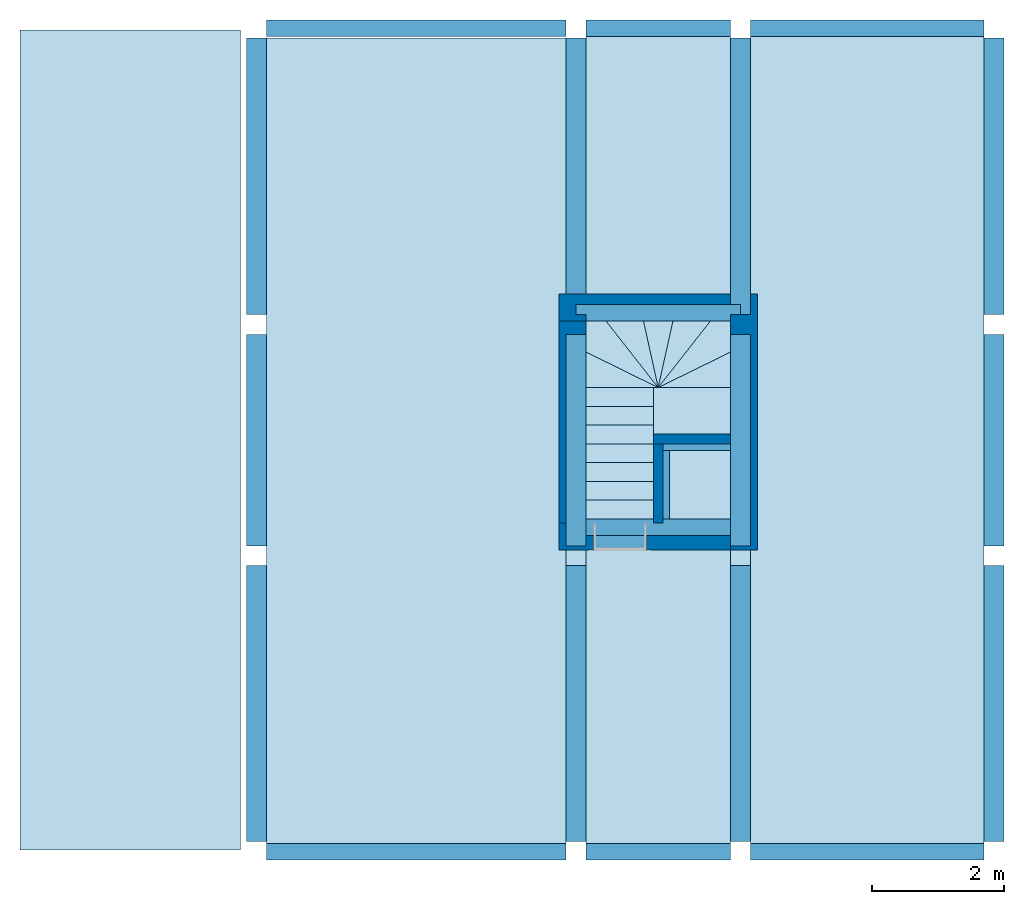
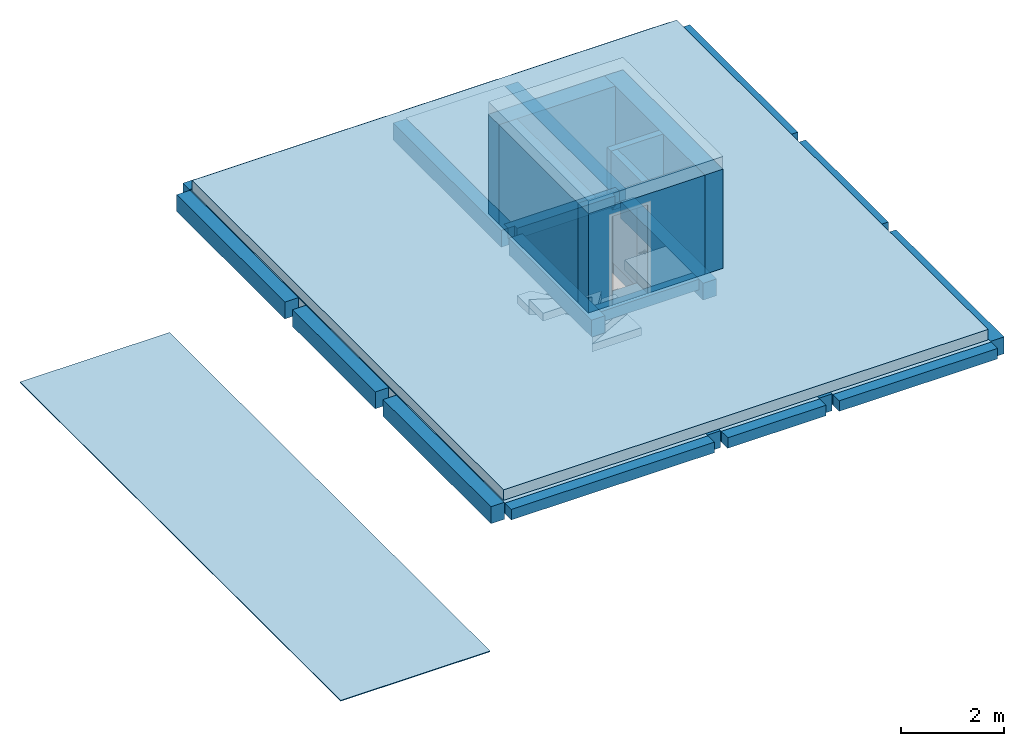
# One storey, incomplete: 22 beams, 10 slabs, 6 walls, 2 openings, 2 elements without a shape of their own.
"""IFC2X3 building model written with IfcOpenShell, lengths in metres."""

from ifc_helpers import new_model, entity, si_unit, converted_unit, derived_unit, direction, frame, frame_2d, origin, origin_2d_with_axis, place, context, subcontext, project, spatial, polyline, rectangle, outline, extrude, clip, bounded_halfspace, material, layer, layer_set, layer_usage, type_object, element, aggregate, save


model = new_model("IFC2X3")

# Units and contexts
model_context = context("Model", 3, precision=1e-05, world=origin(), true_north=direction((6.12303176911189e-17, 1.0)))
context_of_model = context(None, 3, precision=1e-05, world=origin(), true_north=direction((6.12303176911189e-17, 1.0)))
body_context = subcontext(model_context, "Body", "Model", "MODEL_VIEW")
ifc_project = project(units=[si_unit("LENGTHUNIT", "METRE"), si_unit("AREAUNIT", "SQUARE_METRE"), si_unit("VOLUMEUNIT", "CUBIC_METRE"), converted_unit("PLANEANGLEUNIT", "DEGREE", entity("IfcRatioMeasure", 0.0174532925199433), si_unit("PLANEANGLEUNIT", "RADIAN"), dimensions=[0, 0, 0, 0, 0, 0, 0]), si_unit("MASSUNIT", "GRAM", prefix="KILO"), si_unit("TIMEUNIT", "SECOND"), si_unit("FREQUENCYUNIT", "HERTZ"), si_unit("THERMODYNAMICTEMPERATUREUNIT", "DEGREE_CELSIUS"), derived_unit("THERMALTRANSMITTANCEUNIT", [(si_unit("MASSUNIT", "GRAM", prefix="KILO"), 1), (si_unit("THERMODYNAMICTEMPERATUREUNIT", "KELVIN"), -1), (si_unit("TIMEUNIT", "SECOND"), -3)]), derived_unit("VOLUMETRICFLOWRATEUNIT", [(si_unit("LENGTHUNIT", "METRE"), 3), (si_unit("TIMEUNIT", "SECOND"), -1)]), si_unit("ELECTRICCURRENTUNIT", "AMPERE"), si_unit("ELECTRICVOLTAGEUNIT", "VOLT"), si_unit("POWERUNIT", "WATT"), si_unit("FORCEUNIT", "NEWTON", prefix="KILO"), si_unit("ILLUMINANCEUNIT", "LUX"), si_unit("LUMINOUSFLUXUNIT", "LUMEN"), si_unit("LUMINOUSINTENSITYUNIT", "CANDELA"), si_unit("PRESSUREUNIT", "PASCAL")], contexts=[model_context, context_of_model])

# Site, building, storey
site_placement = place(None, origin())
site = spatial("IfcSite", under=ifc_project, at=site_placement, Name="Default", CompositionType="ELEMENT")
building_placement = place(site_placement, origin())
building = spatial("IfcBuilding", under=site, at=building_placement, CompositionType="ELEMENT")
storey_placement = place(building_placement, frame((0.0, 0.0, 6.78)))
storey = spatial("IfcBuildingStorey", under=building, at=storey_placement, Name="03.ES.CUBIERTA", CompositionType="ELEMENT", Elevation=6.78)

# Beams
beam_1_placement = place(storey_placement, frame((15.265, 0.600000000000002, 0.0), z_axis=(0.0, 0.0, 1.0), x_axis=(-1.0, 0.0, 0.0)))
element("IfcBeam", 1, at=beam_1_placement, inside=storey, Name="Hormigón-Viga rectangular:250 x 250 mm", ObjectType="Hormigón-Viga rectangular:250 x 250 mm", context=body_context, shape_type="SweptSolid", body=[
    extrude(rectangle(XDim=0.249999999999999, YDim=0.250000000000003, at=frame_2d((0.0, 1.14006026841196e-14), x_axis=(1.0, 0.0))), frame((0.0, 0.0, -0.125000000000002), z_axis=(1.0, 0.0, 0.0), x_axis=(0.0, 0.0, -1.0)), (0.0, 0.0, 1.0), 3.55000000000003),
])
beam_2_placement = place(storey_placement, frame((11.415, 0.600000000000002, 0.0), z_axis=(0.0, 0.0, 1.0), x_axis=(-1.0, 0.0, 0.0)))
element("IfcBeam", 2, at=beam_2_placement, inside=storey, Name="Hormigón-Viga rectangular:250 x 250 mm", ObjectType="Hormigón-Viga rectangular:250 x 250 mm", context=body_context, shape_type="SweptSolid", body=[
    extrude(rectangle(XDim=0.249999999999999, YDim=0.250000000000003, at=frame_2d((0.0, 7.07073288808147e-15), x_axis=(1.0, 0.0))), frame((0.0, 0.0, -0.125000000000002), z_axis=(1.0, 0.0, 0.0), x_axis=(0.0, 0.0, -1.0)), (0.0, 0.0, 1.0), 2.19999999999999),
])
beam_3_placement = place(storey_placement, frame((8.915, 0.600000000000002, 0.0), z_axis=(0.0, 0.0, 1.0), x_axis=(-1.0, 0.0, 0.0)))
element("IfcBeam", 3, at=beam_3_placement, inside=storey, Name="Hormigón-Viga rectangular:250 x 250 mm", ObjectType="Hormigón-Viga rectangular:250 x 250 mm", context=body_context, shape_type="SweptSolid", body=[
    extrude(rectangle(XDim=0.25, YDim=0.250000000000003, at=frame_2d((0.0, 1.45508605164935e-14), x_axis=(1.0, 0.0))), frame((0.0, 0.0, -0.125000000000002), z_axis=(1.0, 0.0, 0.0), x_axis=(0.0, 0.0, -1.0)), (0.0, 0.0, 1.0), 4.54999999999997),
])
beam_4_placement = place(storey_placement, frame((15.265, 13.0999999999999, 0.0), z_axis=(0.0, 0.0, 1.0), x_axis=(-1.0, 0.0, 0.0)))
element("IfcBeam", 4, at=beam_4_placement, inside=storey, Name="Hormigón-Viga rectangular:250 x 250 mm", ObjectType="Hormigón-Viga rectangular:250 x 250 mm", context=body_context, shape_type="SweptSolid", body=[
    extrude(rectangle(XDim=0.25, YDim=0.250000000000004, at=frame_2d((0.0, 1.08316133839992e-14), x_axis=(1.0, 0.0))), frame((0.0, 0.0, -0.125000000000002), z_axis=(1.0, 0.0, 0.0), x_axis=(0.0, 0.0, -1.0)), (0.0, 0.0, 1.0), 3.55000000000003),
])
beam_5_placement = place(storey_placement, frame((11.415, 13.1, 0.0), z_axis=(0.0, 0.0, 1.0), x_axis=(-1.0, 0.0, 0.0)))
element("IfcBeam", 5, at=beam_5_placement, inside=storey, Name="Hormigón-Viga rectangular:250 x 250 mm", ObjectType="Hormigón-Viga rectangular:250 x 250 mm", context=body_context, shape_type="SweptSolid", body=[
    extrude(rectangle(XDim=0.25, YDim=0.250000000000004, at=frame_2d((0.0, 6.50174358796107e-15), x_axis=(1.0, 0.0))), frame((0.0, 0.0, -0.125000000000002), z_axis=(1.0, 0.0, 0.0), x_axis=(0.0, 0.0, -1.0)), (0.0, 0.0, 1.0), 2.19999999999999),
])
beam_6_placement = place(storey_placement, frame((4.36500000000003, 13.1, 0.0)))
element("IfcBeam", 6, at=beam_6_placement, inside=storey, Name="Hormigón-Viga rectangular:250 x 250 mm", ObjectType="Hormigón-Viga rectangular:250 x 250 mm", context=body_context, shape_type="SweptSolid", body=[
    extrude(rectangle(XDim=0.25, YDim=0.250000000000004, at=frame_2d((0.0, 1.51614831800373e-14), x_axis=(1.0, 0.0))), frame((0.0, 0.0, -0.125000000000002), z_axis=(1.0, 0.0, 0.0), x_axis=(0.0, 0.0, -1.0)), (0.0, 0.0, 1.0), 4.54999999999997),
])
beam_7_placement = place(storey_placement, frame((15.415, 0.750000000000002, 0.0), z_axis=(0.0, 0.0, 1.0), x_axis=(0.0, 1.0, 0.0)))
element("IfcBeam", 7, at=beam_7_placement, inside=storey, Name="Hormigón-Viga rectangular:300 x 400 mm", ObjectType="Hormigón-Viga rectangular:300 x 400 mm", context=body_context, shape_type="SweptSolid", body=[
    extrude(rectangle(XDim=0.4, YDim=0.300000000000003, at=frame_2d((0.0, -1.08246744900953e-15), x_axis=(1.0, 0.0))), frame((0.0, 0.0, -0.200000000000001), z_axis=(1.0, 0.0, 0.0), x_axis=(0.0, 0.0, -1.0)), (0.0, 0.0, 1.0), 4.19006108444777),
])
beam_8_placement = place(storey_placement, frame((15.415, 5.24006108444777, 0.0), z_axis=(0.0, 0.0, 1.0), x_axis=(0.0, 1.0, 0.0)))
element("IfcBeam", 8, at=beam_8_placement, inside=storey, Name="Hormigón-Viga rectangular:300 x 400 mm", ObjectType="Hormigón-Viga rectangular:300 x 400 mm", context=body_context, shape_type="SweptSolid", body=[
    extrude(rectangle(XDim=0.4, YDim=0.300000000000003, at=frame_2d((0.0, -1.08246744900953e-15), x_axis=(1.0, 0.0))), frame((0.0, 0.0, -0.200000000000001), z_axis=(1.0, 0.0, 0.0), x_axis=(0.0, 0.0, -1.0)), (0.0, 0.0, 1.0), 3.20993891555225),
])
beam_9_placement = place(storey_placement, frame((15.415, 8.75000000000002, 0.0), z_axis=(0.0, 0.0, 1.0), x_axis=(0.0, 1.0, 0.0)))
element("IfcBeam", 9, at=beam_9_placement, inside=storey, Name="Hormigón-Viga rectangular:300 x 400 mm", ObjectType="Hormigón-Viga rectangular:300 x 400 mm", context=body_context, shape_type="SweptSolid", body=[
    extrude(rectangle(XDim=0.4, YDim=0.300000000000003, at=frame_2d((0.0, -1.08246744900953e-15), x_axis=(1.0, 0.0))), frame((0.0, 0.0, -0.200000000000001), z_axis=(1.0, 0.0, 0.0), x_axis=(0.0, 0.0, -1.0)), (0.0, 0.0, 1.0), 4.19999999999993),
])
beam_10_placement = place(storey_placement, frame((11.565, 0.750000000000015, 0.0), z_axis=(0.0, 0.0, 1.0), x_axis=(0.0, 1.0, 0.0)))
element("IfcBeam", 10, at=beam_10_placement, inside=storey, Name="Hormigón-Viga rectangular:300 x 400 mm", ObjectType="Hormigón-Viga rectangular:300 x 400 mm", context=body_context, shape_type="SweptSolid", body=[
    extrude(rectangle(XDim=0.4, YDim=0.300000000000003, at=frame_2d((0.0, -1.08246744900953e-15), x_axis=(1.0, 0.0))), frame((0.0, 0.0, -0.200000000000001), z_axis=(1.0, 0.0, 0.0), x_axis=(0.0, 0.0, -1.0)), (0.0, 0.0, 1.0), 4.19006108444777),
])
beam_11_placement = place(storey_placement, frame((11.565, 5.24006108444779, 0.0), z_axis=(0.0, 0.0, 1.0), x_axis=(0.0, 1.0, 0.0)))
element("IfcBeam", 11, at=beam_11_placement, inside=storey, Name="Hormigón-Viga rectangular:300 x 400 mm", ObjectType="Hormigón-Viga rectangular:300 x 400 mm", context=body_context, shape_type="SweptSolid", body=[
    extrude(rectangle(XDim=0.4, YDim=0.300000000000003, at=frame_2d((0.0, -1.08246744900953e-15), x_axis=(1.0, 0.0))), frame((0.0, 0.0, -0.200000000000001), z_axis=(1.0, 0.0, 0.0), x_axis=(0.0, 0.0, -1.0)), (0.0, 0.0, 1.0), 3.20993891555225),
])
beam_12_placement = place(storey_placement, frame((11.565, 8.75000000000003, 0.0), z_axis=(0.0, 0.0, 1.0), x_axis=(0.0, 1.0, 0.0)))
element("IfcBeam", 12, at=beam_12_placement, inside=storey, Name="Hormigón-Viga rectangular:300 x 400 mm", ObjectType="Hormigón-Viga rectangular:300 x 400 mm", context=body_context, shape_type="Clipping", body=[
    clip(extrude(rectangle(XDim=0.4, YDim=0.300000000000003, at=frame_2d((0.0, -1.08246744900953e-15), x_axis=(1.0, 0.0))), frame((0.0, 0.0, -0.200000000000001), z_axis=(1.0, 0.0, 0.0), x_axis=(0.0, 0.0, -1.0)), (0.0, 0.0, 1.0), 4.19999999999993), bounded_halfspace(frame((0.154999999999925, 2.35000000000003, 0.0), z_axis=(-1.0, 0.0, 0.0), x_axis=(0.0, 0.0, -1.0)), False, frame((0.0, 0.0, -0.200000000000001), z_axis=(1.0, 0.0, 0.0), x_axis=(0.0, 0.0, -1.0)), polyline([(0.0500000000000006, 0.0), (-0.2, 0.0), (-0.2, 0.150000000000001), (0.0500000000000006, 0.150000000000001), (0.0500000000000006, 0.0)]))),
])
beam_13_placement = place(storey_placement, frame((9.06499999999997, 0.750000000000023, 0.0), z_axis=(0.0, 0.0, 1.0), x_axis=(0.0, 1.0, 0.0)))
element("IfcBeam", 13, at=beam_13_placement, inside=storey, Name="Hormigón-Viga rectangular:300 x 400 mm", ObjectType="Hormigón-Viga rectangular:300 x 400 mm", context=body_context, shape_type="SweptSolid", body=[
    extrude(rectangle(XDim=0.4, YDim=0.300000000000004, at=frame_2d((0.0, -5.41233724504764e-16), x_axis=(1.0, 0.0))), frame((0.0, 0.0, -0.200000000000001), z_axis=(1.0, 0.0, 0.0), x_axis=(0.0, 0.0, -1.0)), (0.0, 0.0, 1.0), 4.19006108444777),
])
beam_14_placement = place(storey_placement, frame((9.06499999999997, 5.2400610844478, 0.0), z_axis=(0.0, 0.0, 1.0), x_axis=(0.0, 1.0, 0.0)))
element("IfcBeam", 14, at=beam_14_placement, inside=storey, Name="Hormigón-Viga rectangular:300 x 400 mm", ObjectType="Hormigón-Viga rectangular:300 x 400 mm", context=body_context, shape_type="SweptSolid", body=[
    extrude(rectangle(XDim=0.4, YDim=0.300000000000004, at=frame_2d((0.0, -5.41233724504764e-16), x_axis=(1.0, 0.0))), frame((0.0, 0.0, -0.200000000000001), z_axis=(1.0, 0.0, 0.0), x_axis=(0.0, 0.0, -1.0)), (0.0, 0.0, 1.0), 3.20993891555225),
])
beam_15_placement = place(storey_placement, frame((9.06499999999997, 8.75000000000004, 0.0), z_axis=(0.0, 0.0, 1.0), x_axis=(0.0, 1.0, 0.0)))
element("IfcBeam", 15, at=beam_15_placement, inside=storey, Name="Hormigón-Viga rectangular:300 x 400 mm", ObjectType="Hormigón-Viga rectangular:300 x 400 mm", context=body_context, shape_type="Clipping", body=[
    clip(extrude(rectangle(XDim=0.4, YDim=0.300000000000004, at=frame_2d((-5.41233724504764e-16, 0.0), x_axis=(0.0, 1.0))), frame((0.0, 0.0, -0.200000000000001), z_axis=(1.0, 0.0, 0.0), x_axis=(0.0, 1.0, 0.0)), (0.0, 0.0, 1.0), 4.19999999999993), bounded_halfspace(frame((0.154999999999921, -0.150000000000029, 0.0), z_axis=(-1.0, 0.0, 0.0), x_axis=(0.0, 0.0, -1.0)), False, frame((0.0, 0.0, -0.200000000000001), z_axis=(1.0, 0.0, 0.0), x_axis=(0.0, 1.0, 0.0)), polyline([(0.0, 0.199999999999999), (0.0, -0.0500000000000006), (-0.150000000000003, -0.0500000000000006), (-0.150000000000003, 0.2), (0.0, 0.199999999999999)]))),
])
beam_16_placement = place(storey_placement, frame((4.21499999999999, 0.750000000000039, 0.0), z_axis=(0.0, 0.0, 1.0), x_axis=(0.0, 1.0, 0.0)))
element("IfcBeam", 16, at=beam_16_placement, inside=storey, Name="Hormigón-Viga rectangular:300 x 400 mm", ObjectType="Hormigón-Viga rectangular:300 x 400 mm", context=body_context, shape_type="SweptSolid", body=[
    extrude(rectangle(XDim=0.4, YDim=0.300000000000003, at=origin_2d_with_axis()), frame((0.0, 0.0, -0.200000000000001), z_axis=(1.0, 0.0, 0.0), x_axis=(0.0, 0.0, -1.0)), (0.0, 0.0, 1.0), 4.19006108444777),
])
beam_17_placement = place(storey_placement, frame((4.21499999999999, 5.24006108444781, 0.0), z_axis=(0.0, 0.0, 1.0), x_axis=(0.0, 1.0, 0.0)))
element("IfcBeam", 17, at=beam_17_placement, inside=storey, Name="Hormigón-Viga rectangular:300 x 400 mm", ObjectType="Hormigón-Viga rectangular:300 x 400 mm", context=body_context, shape_type="SweptSolid", body=[
    extrude(rectangle(XDim=0.4, YDim=0.300000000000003, at=origin_2d_with_axis()), frame((0.0, 0.0, -0.200000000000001), z_axis=(1.0, 0.0, 0.0), x_axis=(0.0, 0.0, -1.0)), (0.0, 0.0, 1.0), 3.20993891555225),
])
beam_18_placement = place(storey_placement, frame((4.21499999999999, 8.75000000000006, 0.0), z_axis=(0.0, 0.0, 1.0), x_axis=(0.0, 1.0, 0.0)))
element("IfcBeam", 18, at=beam_18_placement, inside=storey, Name="Hormigón-Viga rectangular:300 x 400 mm", ObjectType="Hormigón-Viga rectangular:300 x 400 mm", context=body_context, shape_type="SweptSolid", body=[
    extrude(rectangle(XDim=0.4, YDim=0.300000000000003, at=origin_2d_with_axis()), frame((0.0, 0.0, -0.200000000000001), z_axis=(1.0, 0.0, 0.0), x_axis=(0.0, 0.0, -1.0)), (0.0, 0.0, 1.0), 4.19999999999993),
])
beam_19_placement = place(storey_placement, frame((11.565, 5.52500000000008, 0.0), z_axis=(0.0, 0.0, 1.0), x_axis=(-1.0, 0.0, 0.0)))
element("IfcBeam", 19, at=beam_19_placement, inside=storey, Name="Hormigón-Viga rectangular:250 x 250 mm", ObjectType="Hormigón-Viga rectangular:250 x 250 mm", context=body_context, shape_type="SweptSolid", body=[
    extrude(rectangle(XDim=0.249999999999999, YDim=0.250000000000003, at=frame_2d((0.0, 8.11850586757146e-15), x_axis=(1.0, 0.0))), frame((0.149999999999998, 0.0, -0.125000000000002), z_axis=(1.0, 0.0, 0.0), x_axis=(0.0, 0.0, -1.0)), (0.0, 0.0, 1.0), 2.20000000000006),
])
beam_20_placement = place(storey_placement, frame((11.565, 6.8150000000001, 0.0), z_axis=(0.0, 0.0, 1.0), x_axis=(-1.0, 0.0, 0.0)))
element("IfcBeam", 20, at=beam_20_placement, inside=storey, Name="Hormigón-Viga rectangular:250 x 250 mm", ObjectType="Hormigón-Viga rectangular:250 x 250 mm", context=body_context, shape_type="SweptSolid", body=[
    extrude(rectangle(XDim=0.25, YDim=0.250000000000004, at=frame_2d((0.0, 3.25434124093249e-15), x_axis=(1.0, 0.0))), frame((0.149999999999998, 0.0, -0.125000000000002), z_axis=(1.0, 0.0, 0.0), x_axis=(0.0, 0.0, -1.0)), (0.0, 0.0, 1.0), 1.17499999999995),
])
beam_21_placement = place(storey_placement, frame((10.3650000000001, 6.81500000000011, 0.0), z_axis=(0.0, 0.0, 1.0), x_axis=(0.0, -1.0, 0.0)))
element("IfcBeam", 21, at=beam_21_placement, inside=storey, Name="Hormigón-Viga rectangular:250 x 250 mm", ObjectType="Hormigón-Viga rectangular:250 x 250 mm", context=body_context, shape_type="SweptSolid", body=[
    extrude(rectangle(XDim=0.249999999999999, YDim=0.250000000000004, at=origin_2d_with_axis()), frame((0.125, 0.0, -0.125000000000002), z_axis=(1.0, 0.0, 0.0), x_axis=(0.0, 0.0, -1.0)), (0.0, 0.0, 1.0), 1.04000000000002),
])
beam_22_placement = place(storey_placement, frame((11.565, 8.77999999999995, 0.0), z_axis=(0.0, 0.0, 1.0), x_axis=(-1.0, 0.0, 0.0)))
element("IfcBeam", 22, at=beam_22_placement, inside=storey, Name="Hormigón-Viga rectangular:250 x 250 mm", ObjectType="Hormigón-Viga rectangular:250 x 250 mm", context=body_context, shape_type="Clipping", body=[
    clip(clip(extrude(rectangle(XDim=0.249999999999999, YDim=0.250000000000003, at=frame_2d((0.0, 8.65973959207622e-15), x_axis=(1.0, 0.0))), frame((0.0, 0.0, -0.125000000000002), z_axis=(1.0, 0.0, 0.0), x_axis=(0.0, 0.0, -1.0)), (0.0, 0.0, 1.0), 2.50000000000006), bounded_halfspace(frame((0.150000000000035, 0.0299999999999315, 0.0), z_axis=(-1.0, 0.0, 0.0), x_axis=(0.0, -1.0, 0.0)), False, frame((0.0, 0.0, -0.125000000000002), z_axis=(1.0, 0.0, 0.0), x_axis=(0.0, 0.0, -1.0)), polyline([(0.125000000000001, 0.0299999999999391), (-0.124999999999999, 0.0299999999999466), (-0.124999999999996, 0.125000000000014), (0.125000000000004, 0.125000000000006), (0.125000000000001, 0.0299999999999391)]))), bounded_halfspace(frame((2.35000000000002, 0.329999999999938, 0.0), z_axis=(1.0, 0.0, 0.0), x_axis=(0.0, 1.0, 0.0)), False, frame((0.0, 0.0, -0.125000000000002), z_axis=(1.0, 0.0, 0.0), x_axis=(0.0, 0.0, -1.0)), polyline([(-0.125000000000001, 0.0299999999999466), (0.125000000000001, 0.0299999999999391), (0.125000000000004, 0.124999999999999), (-0.124999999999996, 0.125000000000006), (-0.125000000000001, 0.0299999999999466)]))),
])

# Slabs
ifc_material_1 = material(Name="Suelos por defecto")
ifc_layer_1 = layer(ifc_material_1, 0.25)
ifc_layer_set_1 = layer_set([ifc_layer_1], Name="Suelo:Forjado bovedilla + vigueta - 25 cm")
ifc_layer_usage_1 = layer_usage(ifc_layer_set_1, "AXIS3", "POSITIVE", 0.0)
slab_1_placement = place(storey_placement, origin())
element("IfcSlab", 23, at=slab_1_placement, inside=storey, material=ifc_layer_usage_1, Name="Suelo:Forjado bovedilla + vigueta - 25 cm", ObjectType="Suelo:Forjado bovedilla + vigueta - 25 cm", PredefinedType="FLOOR", context=body_context, shape_type="SweptSolid", body=[
    extrude(rectangle(XDim=12.225, YDim=4.54999999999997, at=frame_2d((0.0, 2.22044604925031e-16), x_axis=(1.0, 0.0))), frame((6.64000000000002, 6.83749999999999, 0.0), z_axis=(0.0, 0.0, -1.0), x_axis=(0.0, 1.0, 0.0)), (0.0, 0.0, 1.0), 0.249999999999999),
])
ifc_layer_usage_2 = layer_usage(ifc_layer_set_1, "AXIS3", "POSITIVE", 0.0)
slab_2_placement = place(storey_placement, origin())
element("IfcSlab", 24, at=slab_2_placement, inside=storey, material=ifc_layer_usage_2, Name="Suelo:Forjado bovedilla + vigueta - 25 cm", ObjectType="Suelo:Forjado bovedilla + vigueta - 25 cm", PredefinedType="FLOOR", context=body_context, shape_type="SweptSolid", body=[
    extrude(rectangle(XDim=4.67500000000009, YDim=2.2, at=frame_2d((6.66133814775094e-16, -1.11022302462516e-15), x_axis=(1.0, 0.0))), frame((10.315, 3.06250000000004, 0.0), z_axis=(0.0, 0.0, -1.0), x_axis=(0.0, 1.0, 0.0)), (0.0, 0.0, 1.0), 0.249999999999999),
])
ifc_layer_usage_3 = layer_usage(ifc_layer_set_1, "AXIS3", "POSITIVE", 0.0)
slab_3_placement = place(storey_placement, origin())
element("IfcSlab", 25, at=slab_3_placement, inside=storey, material=ifc_layer_usage_3, Name="Suelo:Forjado bovedilla + vigueta - 25 cm", ObjectType="Suelo:Forjado bovedilla + vigueta - 25 cm", PredefinedType="FLOOR", context=body_context, shape_type="SweptSolid", body=[
    extrude(rectangle(XDim=12.25, YDim=3.55000000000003, at=frame_2d((-8.88178419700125e-16, -1.11022302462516e-15), x_axis=(1.0, 0.0))), frame((13.49, 6.84999999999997, 0.0), z_axis=(0.0, 0.0, -1.0), x_axis=(0.0, 1.0, 0.0)), (0.0, 0.0, 1.0), 0.249999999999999),
])
ifc_layer_usage_4 = layer_usage(ifc_layer_set_1, "AXIS3", "POSITIVE", 0.0)
slab_4_placement = place(storey_placement, origin())
element("IfcSlab", 26, at=slab_4_placement, inside=storey, material=ifc_layer_usage_4, Name="Suelo:Forjado bovedilla + vigueta - 25 cm", ObjectType="Suelo:Forjado bovedilla + vigueta - 25 cm", PredefinedType="FLOOR", context=body_context, shape_type="SweptSolid", body=[
    extrude(rectangle(XDim=1.04000000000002, YDim=0.92499999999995, at=frame_2d((5.55111512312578e-16, 0.0), x_axis=(1.0, 0.0))), frame((10.9525000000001, 6.17000000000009, 0.0), z_axis=(0.0, 0.0, -1.0), x_axis=(0.0, 1.0, 0.0)), (0.0, 0.0, 1.0), 0.249999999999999),
])
ifc_layer_usage_5 = layer_usage(ifc_layer_set_1, "AXIS3", "POSITIVE", 0.0)
slab_5_placement = place(storey_placement, origin())
element("IfcSlab", 27, at=slab_5_placement, inside=storey, material=ifc_layer_usage_5, Name="Suelo:Forjado bovedilla + vigueta - 25 cm", ObjectType="Suelo:Forjado bovedilla + vigueta - 25 cm", PredefinedType="FLOOR", context=body_context, shape_type="SweptSolid", body=[
    extrude(rectangle(XDim=4.06999999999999, YDim=2.19999999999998, at=frame_2d((-4.44089209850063e-16, 0.0), x_axis=(1.0, 0.0))), frame((10.315, 10.94, 0.0), z_axis=(0.0, 0.0, -1.0), x_axis=(0.0, 1.0, 0.0)), (0.0, 0.0, 1.0), 0.249999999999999),
])
slab_6_placement = place(storey_placement, origin())
element("IfcSlab", 28, at=slab_6_placement, inside=storey, material=ifc_material_1, Name="Peldaño 3:Peldaño 1", ObjectType="Peldaño 3:Peldaño 1", PredefinedType="FLOOR", context=body_context, shape_type="SweptSolid", body=[
    extrude(outline(polyline([(-0.366119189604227, -0.179999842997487), (0.732951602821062, -0.179999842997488), (-0.366832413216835, 0.359999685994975), (-0.366119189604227, -0.179999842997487)])), frame((9.58135661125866, 7.82509501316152, -1.5849985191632), z_axis=(0.0, 0.0, 1.0), x_axis=(0.999999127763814, -0.00132078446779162, 0.0)), (0.0, 0.0, 1.0), 0.185),
    extrude(outline(polyline([(0.044140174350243, -0.369573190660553), (0.351643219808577, -0.369573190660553), (0.351643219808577, 0.0988473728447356), (-0.747426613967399, 0.640299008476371), (0.044140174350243, -0.369573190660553)])), frame((9.56664321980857, 8.28442626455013, -1.7699985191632), z_axis=(0.0, 0.0, 1.0), x_axis=(-1.0, 0.0, 0.0)), (0.0, 0.0, 1.0), 0.185),
    extrude(outline(polyline([(-0.544805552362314, -0.149389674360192), (0.738323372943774, -0.149389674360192), (-0.193517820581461, 0.298779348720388), (-0.544805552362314, -0.149389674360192)])), frame((9.97617098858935, 8.31737538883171, -1.9549985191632), z_axis=(0.0, 0.0, 1.0), x_axis=(0.616903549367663, -0.787038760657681, 0.0)), (0.0, 0.0, 1.0), 0.185),
    extrude(outline(polyline([(-0.376616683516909, -0.145234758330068), (0.657396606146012, -0.145234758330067), (-0.280779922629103, 0.290469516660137), (-0.376616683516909, -0.145234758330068)])), frame((10.314689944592, 8.31737538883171, -2.1399985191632), z_axis=(0.0, 0.0, 1.0), x_axis=(0.214822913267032, -0.976653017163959, 0.0)), (0.0, 0.0, 1.0), 0.185),
    extrude(outline(polyline([(-0.303703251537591, -0.185308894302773), (0.730711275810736, -0.185308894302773), (-0.427008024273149, 0.370617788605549), (-0.303703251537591, -0.185308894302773)])), frame((10.6532089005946, 8.3173753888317, -2.3249985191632), z_axis=(0.0, 0.0, 1.0), x_axis=(-0.216538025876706, -0.976274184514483, 0.0)), (0.0, 0.0, 1.0), 0.185),
    extrude(outline(polyline([(-0.352108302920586, -0.369968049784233), (-0.0446052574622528, -0.369968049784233), (0.748821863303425, 0.639904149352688), (-0.352108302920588, 0.100031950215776), (-0.352108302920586, -0.369968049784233)])), frame((11.0628916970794, 8.28403140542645, -2.6949985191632), z_axis=(0.0, 0.0, 1.0), x_axis=(-1.0, 0.0, 0.0)), (0.0, 0.0, 1.0), 0.37),
    extrude(outline(polyline([(-0.487958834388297, -0.161575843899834), (0.738217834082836, -0.161575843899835), (-0.250258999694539, 0.32315168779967), (-0.487958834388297, -0.161575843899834)])), frame((11.0480232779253, 7.82408465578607, -2.6949985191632), z_axis=(0.0, 0.0, 1.0), x_axis=(-0.897856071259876, -0.44028908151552, 0.0)), (0.0, 0.0, 1.0), 0.185),
])
slab_7_placement = place(storey_placement, origin())
element("IfcSlab", 29, at=slab_7_placement, inside=storey, material=ifc_material_1, Name="escalera tramo 1:escalera tramo 2", ObjectType="escalera tramo 1:escalera tramo 2", PredefinedType="FLOOR", context=body_context, shape_type="SweptSolid", body=[
    extrude(outline(polyline([(-1.05974808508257, -0.548823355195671), (-1.05974808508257, -0.91882335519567), (0.995969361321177, 0.416175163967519), (0.935251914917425, 0.416175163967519), (0.935251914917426, 0.561176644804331), (0.650251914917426, 0.56117664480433), (0.650251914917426, 0.376176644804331), (0.365251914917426, 0.37617664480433), (0.365251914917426, 0.191176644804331), (0.080251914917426, 0.19117664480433), (0.0802519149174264, 0.00617664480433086), (-0.204748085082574, 0.00617664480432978), (-0.204748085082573, -0.178823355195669), (-0.489748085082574, -0.17882335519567), (-0.489748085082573, -0.36382335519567), (-0.774748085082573, -0.363823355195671), (-0.774748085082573, -0.548823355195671), (-1.05974808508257, -0.548823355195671)])), frame((9.21500000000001, 6.58437917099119, -0.666175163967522), z_axis=(-1.0, 0.0, 0.0), x_axis=(0.0, -1.0, 0.0)), (0.0, 0.0, -1.0), 1.02499999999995),
])

# Roof, slab, opening
roof_1_placement = place(storey_placement, origin())
roof_1 = element("IfcRoof", 30, at=roof_1_placement, inside=storey, Name="Cubierta básica:Plana invertida transitable", ObjectType="Cubierta básica:Plana invertida transitable", ShapeType="NOTDEFINED")
slab_8_placement = place(storey_placement, origin())
slab_8 = element("IfcSlab", 31, at=slab_8_placement, Name="Cubierta básica:Plana invertida transitable:1", ObjectType="Cubierta básica:Plana invertida transitable", PredefinedType="ROOF", context=body_context, shape_type="SweptSolid", body=[
    extrude(rectangle(XDim=12.0915177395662, YDim=10.8600000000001, at=origin_2d_with_axis()), frame((9.81499999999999, 6.86075886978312, 0.0), z_axis=(0.0, 0.0, 1.0), x_axis=(0.0, -1.0, 0.0)), (0.0, 0.0, 1.0), 0.249999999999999),
])
opening_1_placement = place(storey_placement, origin())
element("IfcOpeningElement", 32, at=opening_1_placement, cuts=slab_8, Name="Cubierta básica:Plana invertida transitable:1", ObjectType="Opening", context=body_context, shape_type="SweptSolid", body=[
    extrude(rectangle(XDim=3.88558964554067, YDim=3.02, at=frame_2d((0.0, -5.55111512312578e-16), x_axis=(1.0, 0.0))), frame((10.315, 7.12120463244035, 0.0), z_axis=(0.0, 0.0, 1.0), x_axis=(0.0, 1.0, 0.0)), (0.0, 0.0, 1.0), 0.249999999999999),
])
aggregate(roof_1, [slab_8])

# Slab
ifc_layer_2 = layer(ifc_material_1, 0.3)
ifc_layer_set_2 = layer_set([ifc_layer_2], Name="Suelo:Por defecto - 30 cm")
ifc_layer_usage_6 = layer_usage(ifc_layer_set_2, "AXIS3", "POSITIVE", 0.0)
slab_9_placement = place(storey_placement, origin())
element("IfcSlab", 33, at=slab_9_placement, inside=storey, material=ifc_layer_usage_6, Name="Suelo:Por defecto - 30 cm", ObjectType="Suelo:Por defecto - 30 cm", PredefinedType="FLOOR", context=body_context, shape_type="SweptSolid", body=[
    extrude(rectangle(XDim=3.88558964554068, YDim=3.02, at=frame_2d((-5.55111512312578e-16, 5.55111512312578e-16), x_axis=(1.0, 0.0))), frame((10.315, 7.12120463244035, 2.9), z_axis=(0.0, 0.0, -1.0), x_axis=(0.0, 1.0, 0.0)), (0.0, 0.0, 1.0), 0.3),
])

# Roof, slab
roof_2_placement = place(storey_placement, frame((0.624999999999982, 0.62499999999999, -3.33)))
roof_2 = element("IfcRoof", 34, at=roof_2_placement, inside=storey, Name="Cubierta básica:Plana invertida transitable tipo 2", ObjectType="Cubierta básica:Plana invertida transitable tipo 2", ShapeType="NOTDEFINED")
ifc_material_2 = material(Name="Azulejos de cerámica")
ifc_layer_3 = layer(ifc_material_2, 0.01)
ifc_material_3 = material(Name="Mortero de hormigón")
ifc_layer_4 = layer(ifc_material_3, 0.01)
ifc_layer_set_3 = layer_set([ifc_layer_3, ifc_layer_4], Name="Cubierta básica:Plana invertida transitable tipo 2")
slab_10_placement = place(roof_2_placement, origin())
slab_10 = element("IfcSlab", 35, at=slab_10_placement, material=ifc_layer_set_3, Name="Cubierta básica:Plana invertida transitable tipo 2", ObjectType="Cubierta básica:Plana invertida transitable tipo 2", PredefinedType="ROOF", context=body_context, shape_type="SweptSolid", body=[
    extrude(rectangle(XDim=3.34999999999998, YDim=12.45, at=frame_2d((1.11022302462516e-16, 8.88178419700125e-16), x_axis=(1.0, 0.0))), frame((1.67499999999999, 6.225, 0.0)), (0.0, 0.0, 1.0), 0.0199999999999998),
])
aggregate(roof_2, [slab_10])

# Walls
ifc_material_4 = material(Name="APL-Enfoscado de mortero de cemento de resistencia muy alta a la filtración (B3)")
ifc_layer_5 = layer(ifc_material_4, 0.015)
ifc_material_5 = material(Name="APL-Pared de obra de fabrica de ladrillo ceramico perforado, de e=11,5cm")
ifc_layer_6 = layer(ifc_material_5, 0.115)
ifc_material_6 = material(Name="APL-Camara de aire no ventilada")
ifc_layer_7 = layer(ifc_material_6, 0.075)
ifc_material_7 = material(Name="APL-Poliestireno expandido elastificado de e=0.037")
ifc_layer_8 = layer(ifc_material_7, 0.12)
ifc_material_8 = material(Name="APL-Tabique de obra de fabrica de ladrillo ceramico hueco doble, de e=7cm")
ifc_layer_9 = layer(ifc_material_8, 0.07)
ifc_material_9 = material(Name="APL-Guarnecido de yeso")
ifc_layer_10 = layer(ifc_material_9, 0.015)
ifc_layer_set_4 = layer_set([ifc_layer_5, ifc_layer_6, ifc_layer_7, ifc_layer_8, ifc_layer_9, ifc_layer_10], Name="Muro básico:F3.2")
ifc_layer_usage_7 = layer_usage(ifc_layer_set_4, "AXIS2", "NEGATIVE", 0.205)
wall_type_1 = type_object("IfcWallType", Name="Muro básico:F3.2", PredefinedType="STANDARD", material=ifc_layer_set_4)
wall_1_placement = place(storey_placement, frame((8.80500000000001, 8.85899945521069, 0.0)))
element("IfcWallStandardCase", 36, at=wall_1_placement, inside=storey, type_object=wall_type_1, material=ifc_layer_usage_7, Name="Muro básico:F3.2", ObjectType="Muro básico:F3.2", context=body_context, shape_type="SweptSolid", body=[
    extrude(rectangle(XDim=2.61000000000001, YDim=0.41, at=frame_2d((1.30500000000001, 1.52655665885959e-16), x_axis=(-1.0, 0.0))), origin(), (0.0, 0.0, 1.0), 2.6),
])
ifc_layer_usage_8 = layer_usage(ifc_layer_set_4, "AXIS2", "NEGATIVE", 0.205)
wall_2_placement = place(storey_placement, frame((11.62, 9.06399945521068, 0.0), z_axis=(0.0, 0.0, 1.0), x_axis=(0.0, -1.0, 0.0)))
element("IfcWallStandardCase", 37, at=wall_2_placement, inside=storey, type_object=wall_type_1, material=ifc_layer_usage_8, Name="Muro básico:F3.2", ObjectType="Muro básico:F3.2", context=body_context, shape_type="SweptSolid", body=[
    extrude(rectangle(XDim=3.88558964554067, YDim=0.410000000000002, at=frame_2d((1.94279482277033, 7.49400541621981e-16), x_axis=(-1.0, 0.0))), origin(), (0.0, 0.0, 1.0), 2.6),
])

# Wall, opening
ifc_layer_usage_9 = layer_usage(ifc_layer_set_4, "AXIS2", "NEGATIVE", 0.205)
wall_3_placement = place(storey_placement, frame((11.415, 5.38340980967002, 0.0), z_axis=(0.0, 0.0, 1.0), x_axis=(-1.0, 0.0, 0.0)))
wall_3 = element("IfcWallStandardCase", 38, at=wall_3_placement, inside=storey, type_object=wall_type_1, material=ifc_layer_usage_9, Name="Muro básico:F3.2", ObjectType="Muro básico:F3.2", context=body_context, shape_type="SweptSolid", body=[
    extrude(rectangle(XDim=2.61000000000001, YDim=0.41, at=frame_2d((1.305, 1.80411241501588e-16), x_axis=(-1.0, 0.0))), origin(), (0.0, 0.0, 1.0), 2.6),
])
opening_2_placement = place(wall_3_placement, frame((1.27999999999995, -0.205000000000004, 0.249999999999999)))
element("IfcOpeningElement", 39, at=opening_2_placement, cuts=wall_3, Name="Puerta de 1 hoja:80 x 210 cm negra:1", ObjectType="Opening", context=body_context, shape_type="SweptSolid", body=[
    extrude(rectangle(XDim=2.09999999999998, YDim=0.8, at=frame_2d((1.04999999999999, 0.4), x_axis=(1.0, 0.0))), frame((0.0, 0.0, 0.0), z_axis=(0.0, 1.0, 0.0), x_axis=(0.0, 0.0, 1.0)), (0.0, 0.0, 1.0), 0.41),
])

# Walls
ifc_layer_usage_10 = layer_usage(ifc_layer_set_4, "AXIS2", "NEGATIVE", 0.205)
wall_4_placement = place(storey_placement, frame((9.01000000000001, 5.58840980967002, 0.0), z_axis=(0.0, 0.0, 1.0), x_axis=(0.0, 1.0, 0.0)))
element("IfcWallStandardCase", 40, at=wall_4_placement, inside=storey, type_object=wall_type_1, material=ifc_layer_usage_10, Name="Muro básico:F3.2", ObjectType="Muro básico:F3.2", context=body_context, shape_type="SweptSolid", body=[
    extrude(rectangle(XDim=3.06558964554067, YDim=0.41, at=frame_2d((1.53279482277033, -2.77555756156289e-17), x_axis=(-1.0, 0.0))), origin(), (0.0, 0.0, 1.0), 2.6),
])
ifc_material_10 = material(Name="Muro por defecto")
ifc_layer_11 = layer(ifc_material_10, 0.15)
ifc_layer_set_5 = layer_set([ifc_layer_11], Name="Muro básico:Por defecto - 15 cm")
ifc_layer_usage_11 = layer_usage(ifc_layer_set_5, "AXIS2", "NEGATIVE", 0.075)
wall_type_2 = type_object("IfcWallType", Name="Muro básico:Por defecto - 15 cm", PredefinedType="STANDARD", material=ifc_layer_set_5)
wall_5_placement = place(storey_placement, frame((11.415, 6.8650000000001, 0.0), z_axis=(0.0, 0.0, 1.0), x_axis=(-1.0, 0.0, 0.0)))
element("IfcWallStandardCase", 41, at=wall_5_placement, inside=storey, type_object=wall_type_2, material=ifc_layer_usage_11, Name="Muro básico:Por defecto - 15 cm", ObjectType="Muro básico:Por defecto - 15 cm", context=body_context, shape_type="SweptSolid", body=[
    extrude(rectangle(XDim=1.17499999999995, YDim=0.150000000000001, at=frame_2d((0.587499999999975, 0.0), x_axis=(-1.0, 0.0))), origin(), (0.0, 0.0, 1.0), 2.6),
])
ifc_layer_usage_12 = layer_usage(ifc_layer_set_5, "AXIS2", "NEGATIVE", 0.075)
wall_6_placement = place(storey_placement, frame((10.3150000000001, 6.79000000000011, 0.0), z_axis=(0.0, 0.0, 1.0), x_axis=(0.0, -1.0, 0.0)))
element("IfcWallStandardCase", 42, at=wall_6_placement, inside=storey, type_object=wall_type_2, material=ifc_layer_usage_12, Name="Muro básico:Por defecto - 15 cm", ObjectType="Muro básico:Por defecto - 15 cm", context=body_context, shape_type="SweptSolid", body=[
    extrude(rectangle(XDim=1.20159019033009, YDim=0.150000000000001, at=frame_2d((0.600795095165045, -1.17961196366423e-16), x_axis=(-1.0, 0.0))), origin(), (0.0, 0.0, 1.0), 2.6),
])

save(model, "model.ifc")
